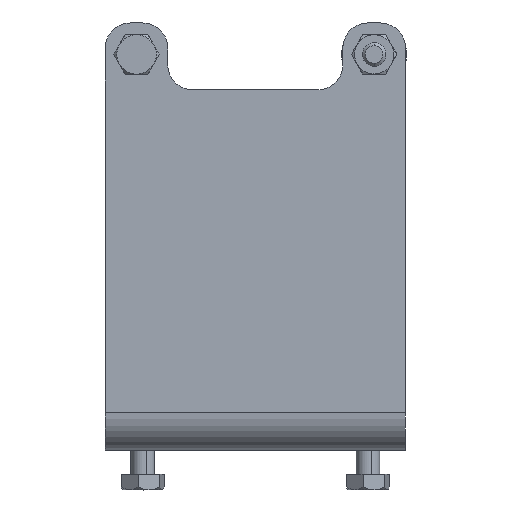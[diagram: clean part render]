
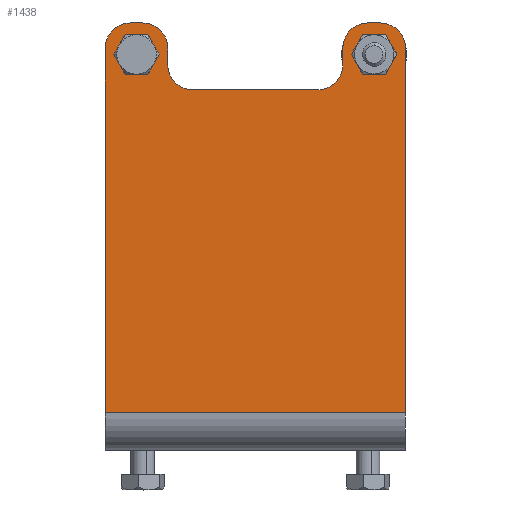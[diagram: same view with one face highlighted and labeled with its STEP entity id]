
A CAD part, top view. The second image highlights one B-rep face of the part: STEP entity #1438.
In plain terms, the highlighted planar face has unit normal (0, 0, 1).
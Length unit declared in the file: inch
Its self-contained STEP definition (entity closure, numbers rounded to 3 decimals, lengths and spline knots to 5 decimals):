
#800=DIRECTION('',(0.,1.,0.));
#801=VECTOR('',#800,3.64546);
#802=CARTESIAN_POINT('',(-1.5,-3.5805,0.188));
#803=LINE('',#802,#801);
#804=CARTESIAN_POINT('',(1.25,0.06496,0.188));
#805=DIRECTION('',(0.,0.,1.));
#806=DIRECTION('',(1.,0.,0.));
#807=AXIS2_PLACEMENT_3D('',#804,#805,#806);
#809=DIRECTION('',(0.,1.,0.));
#810=VECTOR('',#809,3.64546);
#811=CARTESIAN_POINT('',(1.5,-3.5805,0.188));
#812=LINE('',#811,#810);
#813=CARTESIAN_POINT('',(-1.25,0.06496,0.188));
#814=DIRECTION('',(0.,0.,1.));
#815=DIRECTION('',(0.,1.,0.));
#816=AXIS2_PLACEMENT_3D('',#813,#814,#815);
#818=CARTESIAN_POINT('',(-1.125,0.06496,0.188));
#819=DIRECTION('',(0.,0.,1.));
#820=DIRECTION('',(1.,0.,0.));
#821=AXIS2_PLACEMENT_3D('',#818,#819,#820);
#823=DIRECTION('',(0.,1.,0.));
#824=VECTOR('',#823,0.16929);
#825=CARTESIAN_POINT('',(-0.875,-0.10433,0.188));
#826=LINE('',#825,#824);
#827=CARTESIAN_POINT('',(-0.625,-0.10433,0.188));
#828=DIRECTION('',(0.,0.,-1.));
#829=DIRECTION('',(0.,-1.,0.));
#830=AXIS2_PLACEMENT_3D('',#827,#828,#829);
#832=DIRECTION('',(-1.,0.,0.));
#833=VECTOR('',#832,1.25);
#834=CARTESIAN_POINT('',(0.625,-0.35433,0.188));
#835=LINE('',#834,#833);
#836=CARTESIAN_POINT('',(0.625,-0.10433,0.188));
#837=DIRECTION('',(0.,0.,-1.));
#838=DIRECTION('',(1.,0.,0.));
#839=AXIS2_PLACEMENT_3D('',#836,#837,#838);
#841=DIRECTION('',(0.,-1.,0.));
#842=VECTOR('',#841,0.16929);
#843=CARTESIAN_POINT('',(0.875,0.06496,0.188));
#844=LINE('',#843,#842);
#845=CARTESIAN_POINT('',(1.125,0.06496,0.188));
#846=DIRECTION('',(0.,0.,1.));
#847=DIRECTION('',(0.,1.,0.));
#848=AXIS2_PLACEMENT_3D('',#845,#846,#847);
#850=CARTESIAN_POINT('',(-1.1875,0.,0.188));
#851=DIRECTION('',(0.,0.,-1.));
#852=DIRECTION('',(-1.,0.,0.));
#853=AXIS2_PLACEMENT_3D('',#850,#851,#852);
#855=CARTESIAN_POINT('',(-1.1875,0.,0.188));
#856=DIRECTION('',(0.,0.,-1.));
#857=DIRECTION('',(1.,0.,0.));
#858=AXIS2_PLACEMENT_3D('',#855,#856,#857);
#860=CARTESIAN_POINT('',(1.1875,0.,0.188));
#861=DIRECTION('',(0.,0.,-1.));
#862=DIRECTION('',(-1.,0.,0.));
#863=AXIS2_PLACEMENT_3D('',#860,#861,#862);
#865=CARTESIAN_POINT('',(1.1875,0.,0.188));
#866=DIRECTION('',(0.,0.,-1.));
#867=DIRECTION('',(1.,0.,0.));
#868=AXIS2_PLACEMENT_3D('',#865,#866,#867);
#870=DIRECTION('',(1.,0.,0.));
#871=VECTOR('',#870,0.125);
#872=CARTESIAN_POINT('',(1.125,0.31496,0.188));
#873=LINE('',#872,#871);
#960=DIRECTION('',(1.,0.,0.));
#961=VECTOR('',#960,0.125);
#962=CARTESIAN_POINT('',(-1.25,0.31496,0.188));
#963=LINE('',#962,#961);
#1186=DIRECTION('',(-1.,0.,0.));
#1187=VECTOR('',#1186,3.);
#1188=CARTESIAN_POINT('',(1.5,-3.5805,0.188));
#1189=LINE('',#1188,#1187);
#1238=CARTESIAN_POINT('',(-1.5,-3.5805,0.188));
#1240=VERTEX_POINT('',#1238);
#1242=CARTESIAN_POINT('',(-0.625,-0.35433,0.188));
#1243=CARTESIAN_POINT('',(-0.875,-0.10433,0.188));
#1244=VERTEX_POINT('',#1242);
#1245=VERTEX_POINT('',#1243);
#1246=CARTESIAN_POINT('',(-1.05758,0.,0.188));
#1248=VERTEX_POINT('',#1246);
#1254=CARTESIAN_POINT('',(1.5,-3.5805,0.188));
#1256=VERTEX_POINT('',#1254);
#1260=CARTESIAN_POINT('',(1.05758,0.,0.188));
#1262=VERTEX_POINT('',#1260);
#1266=CARTESIAN_POINT('',(-1.31742,0.,0.188));
#1267=VERTEX_POINT('',#1266);
#1292=CARTESIAN_POINT('',(0.875,-0.10433,0.188));
#1293=VERTEX_POINT('',#1292);
#1298=CARTESIAN_POINT('',(-1.5,0.06496,0.188));
#1299=VERTEX_POINT('',#1298);
#1300=CARTESIAN_POINT('',(1.5,0.06496,0.188));
#1301=VERTEX_POINT('',#1300);
#1310=CARTESIAN_POINT('',(0.625,-0.35433,0.188));
#1311=VERTEX_POINT('',#1310);
#1312=CARTESIAN_POINT('',(-0.875,0.06496,0.188));
#1314=VERTEX_POINT('',#1312);
#1318=CARTESIAN_POINT('',(1.31742,0.,0.188));
#1319=VERTEX_POINT('',#1318);
#1320=CARTESIAN_POINT('',(-1.25,0.31496,0.188));
#1321=CARTESIAN_POINT('',(-1.125,0.31496,0.188));
#1322=VERTEX_POINT('',#1320);
#1323=VERTEX_POINT('',#1321);
#1326=CARTESIAN_POINT('',(1.125,0.31496,0.188));
#1327=CARTESIAN_POINT('',(0.875,0.06496,0.188));
#1328=VERTEX_POINT('',#1326);
#1329=VERTEX_POINT('',#1327);
#1336=CARTESIAN_POINT('',(1.25,0.31496,0.188));
#1337=VERTEX_POINT('',#1336);
#1392=CARTESIAN_POINT('',(1.5,-1.55512,0.188));
#1393=DIRECTION('',(0.,0.,-1.));
#1394=DIRECTION('',(0.,1.,0.));
#1395=AXIS2_PLACEMENT_3D('',#1392,#1393,#1394);
#1396=PLANE('',#1395);
#1398=ORIENTED_EDGE('',*,*,#1397,.T.);
#1400=ORIENTED_EDGE('',*,*,#1399,.F.);
#1402=ORIENTED_EDGE('',*,*,#1401,.F.);
#1404=ORIENTED_EDGE('',*,*,#1403,.T.);
#1405=ORIENTED_EDGE('',*,*,#1382,.T.);
#1407=ORIENTED_EDGE('',*,*,#1406,.F.);
#1409=ORIENTED_EDGE('',*,*,#1408,.T.);
#1411=ORIENTED_EDGE('',*,*,#1410,.F.);
#1413=ORIENTED_EDGE('',*,*,#1412,.F.);
#1415=ORIENTED_EDGE('',*,*,#1414,.F.);
#1417=ORIENTED_EDGE('',*,*,#1416,.F.);
#1419=ORIENTED_EDGE('',*,*,#1418,.F.);
#1421=ORIENTED_EDGE('',*,*,#1420,.F.);
#1423=ORIENTED_EDGE('',*,*,#1422,.F.);
#1424=EDGE_LOOP('',(#1398,#1400,#1402,#1404,#1405,#1407,#1409,#1411,#1413,#1415,
#1417,#1419,#1421,#1423));
#1425=FACE_OUTER_BOUND('',#1424,.F.);
#1427=ORIENTED_EDGE('',*,*,#1426,.F.);
#1429=ORIENTED_EDGE('',*,*,#1428,.F.);
#1430=EDGE_LOOP('',(#1427,#1429));
#1431=FACE_BOUND('',#1430,.F.);
#1433=ORIENTED_EDGE('',*,*,#1432,.F.);
#1435=ORIENTED_EDGE('',*,*,#1434,.F.);
#1436=EDGE_LOOP('',(#1433,#1435));
#1437=FACE_BOUND('',#1436,.F.);
#808=CIRCLE('',#807,0.25);
#817=CIRCLE('',#816,0.25);
#822=CIRCLE('',#821,0.25);
#831=CIRCLE('',#830,0.25);
#840=CIRCLE('',#839,0.25);
#849=CIRCLE('',#848,0.25);
#854=CIRCLE('',#853,0.12992);
#859=CIRCLE('',#858,0.12992);
#864=CIRCLE('',#863,0.12992);
#869=CIRCLE('',#868,0.12992);
#1382=EDGE_CURVE('',#1240,#1299,#803,.T.);
#1397=EDGE_CURVE('',#1328,#1337,#873,.T.);
#1399=EDGE_CURVE('',#1301,#1337,#808,.T.);
#1401=EDGE_CURVE('',#1256,#1301,#812,.T.);
#1403=EDGE_CURVE('',#1256,#1240,#1189,.T.);
#1406=EDGE_CURVE('',#1322,#1299,#817,.T.);
#1408=EDGE_CURVE('',#1322,#1323,#963,.T.);
#1410=EDGE_CURVE('',#1314,#1323,#822,.T.);
#1412=EDGE_CURVE('',#1245,#1314,#826,.T.);
#1414=EDGE_CURVE('',#1244,#1245,#831,.T.);
#1416=EDGE_CURVE('',#1311,#1244,#835,.T.);
#1418=EDGE_CURVE('',#1293,#1311,#840,.T.);
#1420=EDGE_CURVE('',#1329,#1293,#844,.T.);
#1422=EDGE_CURVE('',#1328,#1329,#849,.T.);
#1426=EDGE_CURVE('',#1267,#1248,#854,.T.);
#1428=EDGE_CURVE('',#1248,#1267,#859,.T.);
#1432=EDGE_CURVE('',#1262,#1319,#864,.T.);
#1434=EDGE_CURVE('',#1319,#1262,#869,.T.);
#1438=ADVANCED_FACE('',(#1425,#1431,#1437),#1396,.F.);
